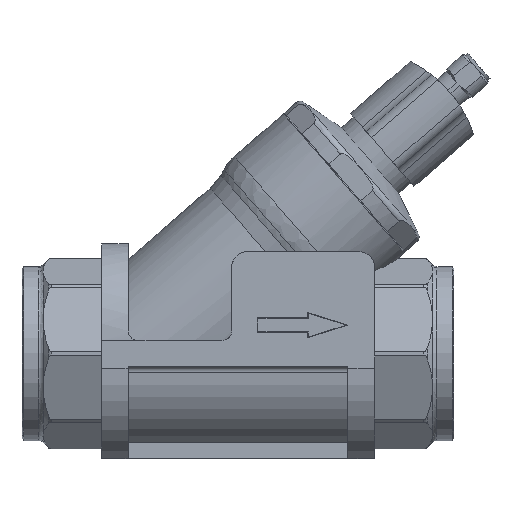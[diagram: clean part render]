
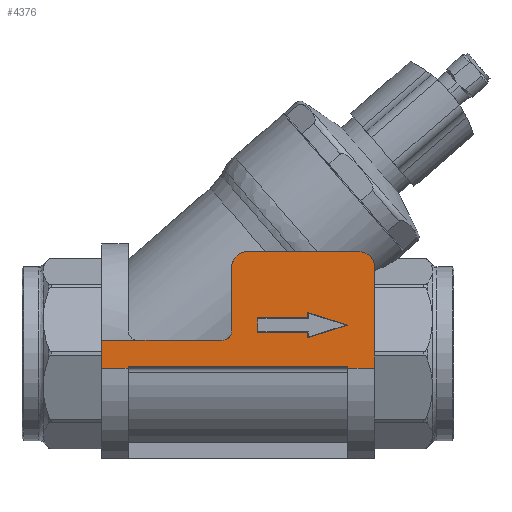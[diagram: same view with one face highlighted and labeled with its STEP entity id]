
A CAD part, top view. The second image highlights one B-rep face of the part: STEP entity #4376.
In plain terms, the highlighted planar face has unit normal (0, 0, 1).
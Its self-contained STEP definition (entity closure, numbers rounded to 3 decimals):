
#68=PLANE('',#4769);
#375=LINE('',#6595,#642);
#408=LINE('',#6752,#675);
#413=LINE('',#6783,#680);
#417=LINE('',#6815,#684);
#452=LINE('',#7565,#719);
#453=LINE('',#7568,#720);
#454=LINE('',#7570,#721);
#455=LINE('',#7572,#722);
#456=LINE('',#7574,#723);
#457=LINE('',#7576,#724);
#458=LINE('',#7578,#725);
#459=LINE('',#7579,#726);
#460=LINE('',#7582,#727);
#461=LINE('',#7584,#728);
#462=LINE('',#7586,#729);
#463=LINE('',#7587,#730);
#464=LINE('',#7589,#731);
#465=LINE('',#7590,#732);
#642=VECTOR('',#5162,1000.);
#675=VECTOR('',#5269,1000.);
#680=VECTOR('',#5286,1000.);
#684=VECTOR('',#5302,1000.);
#719=VECTOR('',#5567,1000.);
#720=VECTOR('',#5568,1000.);
#721=VECTOR('',#5569,1000.);
#722=VECTOR('',#5570,1000.);
#723=VECTOR('',#5571,1000.);
#724=VECTOR('',#5572,1000.);
#725=VECTOR('',#5573,1000.);
#726=VECTOR('',#5574,1000.);
#727=VECTOR('',#5575,1000.);
#728=VECTOR('',#5576,1000.);
#729=VECTOR('',#5577,1000.);
#730=VECTOR('',#5578,1000.);
#731=VECTOR('',#5579,1000.);
#732=VECTOR('',#5580,1000.);
#1312=ORIENTED_EDGE('',*,*,#2588,.F.);
#1313=ORIENTED_EDGE('',*,*,#2589,.F.);
#1314=ORIENTED_EDGE('',*,*,#2590,.F.);
#1315=ORIENTED_EDGE('',*,*,#2591,.F.);
#1316=ORIENTED_EDGE('',*,*,#2592,.F.);
#1317=ORIENTED_EDGE('',*,*,#2593,.F.);
#1318=ORIENTED_EDGE('',*,*,#2594,.F.);
#1319=ORIENTED_EDGE('',*,*,#2595,.F.);
#1320=ORIENTED_EDGE('',*,*,#2596,.T.);
#1321=ORIENTED_EDGE('',*,*,#2597,.F.);
#1322=ORIENTED_EDGE('',*,*,#2598,.F.);
#1323=ORIENTED_EDGE('',*,*,#2354,.T.);
#1324=ORIENTED_EDGE('',*,*,#2386,.F.);
#1325=ORIENTED_EDGE('',*,*,#2378,.T.);
#1326=ORIENTED_EDGE('',*,*,#2376,.F.);
#1327=ORIENTED_EDGE('',*,*,#2369,.F.);
#1328=ORIENTED_EDGE('',*,*,#2366,.F.);
#1329=ORIENTED_EDGE('',*,*,#2599,.T.);
#1330=ORIENTED_EDGE('',*,*,#2600,.T.);
#1331=ORIENTED_EDGE('',*,*,#2306,.F.);
#1332=ORIENTED_EDGE('',*,*,#2601,.F.);
#2306=EDGE_CURVE('',#2962,#2964,#375,.T.);
#2354=EDGE_CURVE('',#3007,#3006,#3413,.F.);
#2366=EDGE_CURVE('',#3008,#3016,#408,.T.);
#2369=EDGE_CURVE('',#3016,#3018,#3414,.F.);
#2376=EDGE_CURVE('',#3018,#3024,#413,.T.);
#2378=EDGE_CURVE('',#3027,#3024,#3416,.F.);
#2386=EDGE_CURVE('',#3027,#3006,#417,.T.);
#2588=EDGE_CURVE('',#3195,#3196,#452,.T.);
#2589=EDGE_CURVE('',#3197,#3195,#453,.T.);
#2590=EDGE_CURVE('',#3198,#3197,#454,.T.);
#2591=EDGE_CURVE('',#3199,#3198,#455,.T.);
#2592=EDGE_CURVE('',#3200,#3199,#456,.T.);
#2593=EDGE_CURVE('',#3201,#3200,#457,.T.);
#2594=EDGE_CURVE('',#3196,#3201,#458,.T.);
#2595=EDGE_CURVE('',#3202,#3203,#459,.T.);
#2596=EDGE_CURVE('',#3202,#3204,#460,.T.);
#2597=EDGE_CURVE('',#3205,#3204,#461,.T.);
#2598=EDGE_CURVE('',#3007,#3205,#462,.T.);
#2599=EDGE_CURVE('',#3008,#3206,#463,.T.);
#2600=EDGE_CURVE('',#3206,#2964,#464,.T.);
#2601=EDGE_CURVE('',#3203,#2962,#465,.T.);
#2962=VERTEX_POINT('',#6593);
#2964=VERTEX_POINT('',#6596);
#3006=VERTEX_POINT('',#6709);
#3007=VERTEX_POINT('',#6711);
#3008=VERTEX_POINT('',#6715);
#3016=VERTEX_POINT('',#6749);
#3018=VERTEX_POINT('',#6755);
#3024=VERTEX_POINT('',#6780);
#3027=VERTEX_POINT('',#6792);
#3195=VERTEX_POINT('',#7566);
#3196=VERTEX_POINT('',#7567);
#3197=VERTEX_POINT('',#7569);
#3198=VERTEX_POINT('',#7571);
#3199=VERTEX_POINT('',#7573);
#3200=VERTEX_POINT('',#7575);
#3201=VERTEX_POINT('',#7577);
#3202=VERTEX_POINT('',#7580);
#3203=VERTEX_POINT('',#7581);
#3204=VERTEX_POINT('',#7583);
#3205=VERTEX_POINT('',#7585);
#3206=VERTEX_POINT('',#7588);
#3413=CIRCLE('',#4638,5.);
#3414=CIRCLE('',#4644,3.);
#3416=CIRCLE('',#4650,5.);
#3676=EDGE_LOOP('',(#1312,#1313,#1314,#1315,#1316,#1317,#1318));
#3677=EDGE_LOOP('',(#1319,#1320,#1321,#1322,#1323,#1324,#1325,#1326,#1327,
#1328,#1329,#1330,#1331,#1332));
#3977=FACE_BOUND('',#3676,.T.);
#3978=FACE_BOUND('',#3677,.T.);
#4376=ADVANCED_FACE('',(#3977,#3978),#68,.F.);
#4638=AXIS2_PLACEMENT_3D('',#6710,#5253,#5254);
#4644=AXIS2_PLACEMENT_3D('',#6763,#5273,#5274);
#4650=AXIS2_PLACEMENT_3D('',#6791,#5289,#5290);
#4769=AXIS2_PLACEMENT_3D('',#7564,#5565,#5566);
#5162=DIRECTION('',(-1.,0.,0.));
#5253=DIRECTION('',(0.,0.,-1.));
#5254=DIRECTION('',(-1.,0.,0.));
#5269=DIRECTION('',(1.,0.,0.));
#5273=DIRECTION('',(0.,0.,-1.));
#5274=DIRECTION('',(-1.,0.,0.));
#5286=DIRECTION('',(0.,1.,0.));
#5289=DIRECTION('',(0.,0.,-1.));
#5290=DIRECTION('',(-1.,0.,0.));
#5302=DIRECTION('',(1.,0.,0.));
#5565=DIRECTION('',(0.,0.,-1.));
#5566=DIRECTION('',(-1.,0.,0.));
#5567=DIRECTION('',(1.,0.,0.));
#5568=DIRECTION('',(0.,-1.,0.));
#5569=DIRECTION('',(-1.,0.,0.));
#5570=DIRECTION('',(0.,-1.,0.));
#5571=DIRECTION('',(-0.954,0.301,0.));
#5572=DIRECTION('',(0.954,0.301,0.));
#5573=DIRECTION('',(0.,-1.,0.));
#5574=DIRECTION('',(-1.,0.,0.));
#5575=DIRECTION('',(0.,-1.,0.));
#5576=DIRECTION('',(-1.,0.,0.));
#5577=DIRECTION('',(0.,-1.,0.));
#5578=DIRECTION('',(-1.,0.,0.));
#5579=DIRECTION('',(0.,-1.,0.));
#5580=DIRECTION('',(0.,-1.,0.));
#6593=CARTESIAN_POINT('',(32.79,-4.541,30.));
#6595=CARTESIAN_POINT('',(109.03,-4.541,30.));
#6596=CARTESIAN_POINT('',(24.63,-4.541,30.));
#6709=CARTESIAN_POINT('',(104.093,31.46,30.));
#6710=CARTESIAN_POINT('',(104.093,26.46,30.));
#6711=CARTESIAN_POINT('',(109.03,27.251,30.));
#6715=CARTESIAN_POINT('',(35.843,4.,30.));
#6749=CARTESIAN_POINT('',(61.811,4.,30.));
#6752=CARTESIAN_POINT('',(109.03,4.,30.));
#6755=CARTESIAN_POINT('',(64.811,7.,30.));
#6763=CARTESIAN_POINT('',(61.811,7.,30.));
#6780=CARTESIAN_POINT('',(64.811,26.46,30.));
#6783=CARTESIAN_POINT('',(64.811,35.,30.));
#6791=CARTESIAN_POINT('',(69.811,26.46,30.));
#6792=CARTESIAN_POINT('',(69.811,31.46,30.));
#6815=CARTESIAN_POINT('',(109.03,31.46,30.));
#7564=CARTESIAN_POINT('',(109.03,35.,30.));
#7565=CARTESIAN_POINT('',(72.8,6.465,30.));
#7566=CARTESIAN_POINT('',(72.8,6.465,30.));
#7567=CARTESIAN_POINT('',(88.36,6.465,30.));
#7568=CARTESIAN_POINT('',(72.8,11.035,30.));
#7569=CARTESIAN_POINT('',(72.8,11.035,30.));
#7570=CARTESIAN_POINT('',(88.36,11.035,30.));
#7571=CARTESIAN_POINT('',(88.36,11.035,30.));
#7572=CARTESIAN_POINT('',(88.36,12.67,30.));
#7573=CARTESIAN_POINT('',(88.36,12.67,30.));
#7574=CARTESIAN_POINT('',(100.8,8.75,30.));
#7575=CARTESIAN_POINT('',(100.8,8.75,30.));
#7576=CARTESIAN_POINT('',(88.36,4.83,30.));
#7577=CARTESIAN_POINT('',(88.36,4.83,30.));
#7578=CARTESIAN_POINT('',(88.36,6.465,30.));
#7579=CARTESIAN_POINT('',(109.03,-4.,30.));
#7580=CARTESIAN_POINT('',(100.71,-4.,30.));
#7581=CARTESIAN_POINT('',(32.79,-4.,30.));
#7582=CARTESIAN_POINT('',(100.71,35.,30.));
#7583=CARTESIAN_POINT('',(100.71,-4.541,30.));
#7584=CARTESIAN_POINT('',(109.03,-4.541,30.));
#7585=CARTESIAN_POINT('',(109.03,-4.541,30.));
#7586=CARTESIAN_POINT('',(109.03,35.,30.));
#7587=CARTESIAN_POINT('',(39.63,4.,30.));
#7588=CARTESIAN_POINT('',(24.63,4.,30.));
#7589=CARTESIAN_POINT('',(24.63,35.,30.));
#7590=CARTESIAN_POINT('',(32.79,35.,30.));
